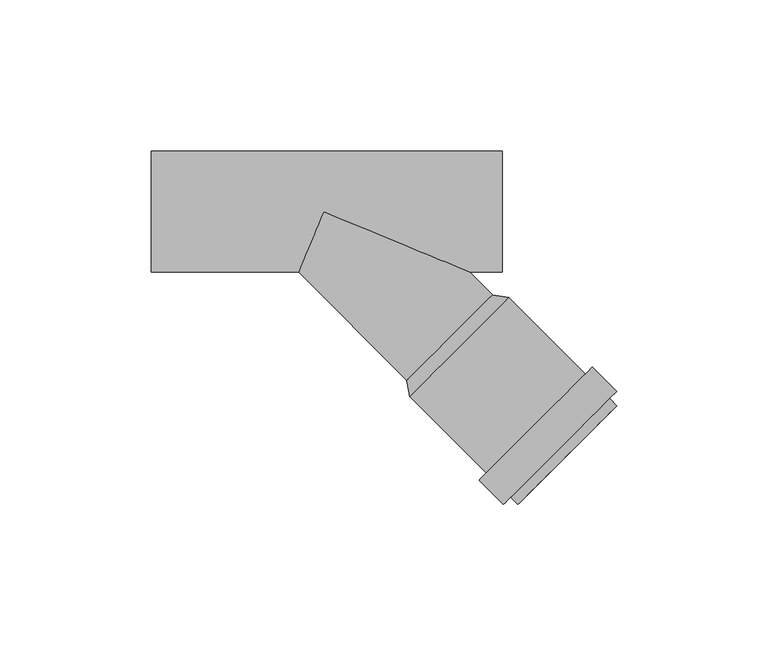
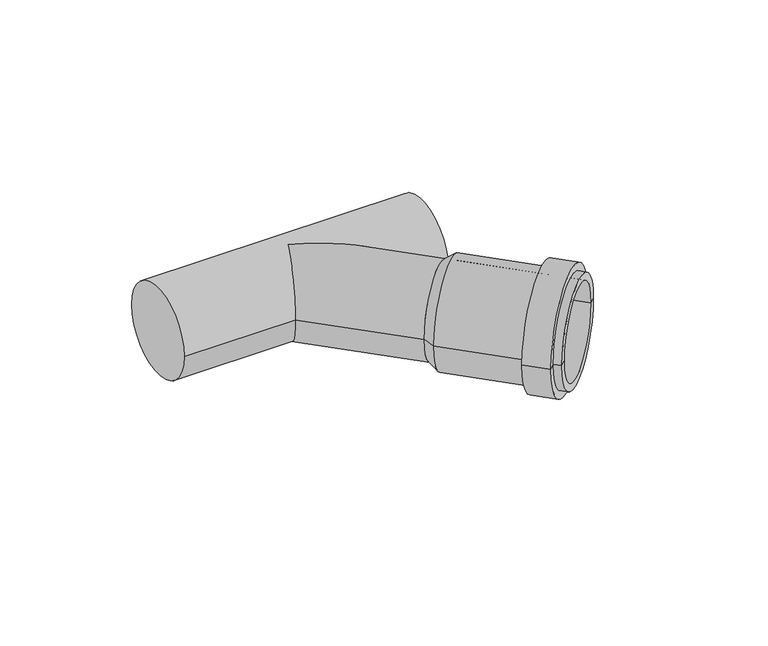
"""IFC4 building model written with IfcOpenShell, lengths in millimetres: pipe fitting geometry, pf_HTEA : pf_HTEA."""

from ifc_helpers import new_model, si_unit, frame, origin, place, context, project, spatial, polyline, circle_curve, ellipse_curve, source, transform, mapped, element, save
from ifc_brep_helpers import plane_surface, cylinder_surface, revolved_surface, advanced_brep


def pipe_fitting_d99bf9d8(model_context):
    return source(origin(), model_context, "Body", "AdvancedBrep", [
        advanced_brep(
        [(27.5771645, -55.8614357, 0.0), (55.8614357, -27.5771645, 0.0), (61.1647366, -28.4964033, 0.0), (28.4964033, -61.1647366, 0.0), (41.7193001, -41.7193001, 0.0), (64.2760064, -96.9443397, 0.0), (96.9443397, -64.2760064, 0.0), (94.7523087, -66.4680374, 0.0), (66.4680374, -94.7523087, 0.0), (61.8718434, -94.5401766, 0.0), (94.5401766, -61.8718434, 0.0), (59.4676803, -96.9443397, 0.0), (96.9443397, -59.4676803, 0.0), (51.406663, -88.8833224, 0.0), (88.8833224, -51.406663, 0.0), (53.810826, -86.4791593, 0.0), (86.4791593, -53.810826, 0.0), (30.6884343, -58.9727056, 0.0), (58.9727056, -30.6884343, 0.0), (44.8305699, -44.8305699, 0.0)],
        [
            (0, 1, circle_curve(frame((41.7193001, -41.7193001, 0.0), z_axis=(0.7071067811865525, -0.7071067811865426, 0.0), x_axis=(0.7071067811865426, 0.7071067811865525, 0.0)), 20.0)),
            (1, 2),
            (2, 3, circle_curve(frame((44.8305699, -44.8305699, 0.0), z_axis=(-0.7071067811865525, 0.7071067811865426, 0.0), x_axis=(0.7071067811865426, 0.7071067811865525, 0.0)), 23.1)),
            (3, 0),
            (1, 0, circle_curve(frame((41.7193001, -41.7193001, 0.0), z_axis=(0.7071067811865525, -0.7071067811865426, 0.0), x_axis=(0.7071067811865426, 0.7071067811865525, 0.0)), 20.0)),
            (3, 2, circle_curve(frame((44.8305699, -44.8305699, 0.0), z_axis=(-0.7071067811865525, 0.7071067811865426, 0.0), x_axis=(0.7071067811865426, 0.7071067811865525, 0.0)), 23.1)),
            (4, 1),
            (0, 4),
            (5, 6, circle_curve(frame((80.6101731, -80.6101731, 0.0), z_axis=(0.7071067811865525, -0.7071067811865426, 0.0), x_axis=(0.7071067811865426, 0.7071067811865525, 0.0)), 23.1)),
            (6, 7),
            (7, 8, circle_curve(frame((80.6101731, -80.6101731, 0.0), z_axis=(-0.7071067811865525, 0.7071067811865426, 0.0), x_axis=(0.7071067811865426, 0.7071067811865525, 0.0)), 20.0)),
            (8, 5),
            (6, 5, circle_curve(frame((80.6101731, -80.6101731, 0.0), z_axis=(0.7071067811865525, -0.7071067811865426, 0.0), x_axis=(0.7071067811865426, 0.7071067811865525, 0.0)), 23.1)),
            (8, 7, circle_curve(frame((80.6101731, -80.6101731, 0.0), z_axis=(-0.7071067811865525, 0.7071067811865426, 0.0), x_axis=(0.7071067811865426, 0.7071067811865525, 0.0)), 20.0)),
            (9, 10, circle_curve(frame((78.20601, -78.20601, 0.0), z_axis=(0.7071067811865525, -0.7071067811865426, 0.0), x_axis=(0.7071067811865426, 0.7071067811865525, 0.0)), 23.1)),
            (10, 6),
            (5, 9),
            (10, 9, circle_curve(frame((78.20601, -78.20601, 0.0), z_axis=(0.7071067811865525, -0.7071067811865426, 0.0), x_axis=(0.7071067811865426, 0.7071067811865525, 0.0)), 23.1)),
            (11, 12, circle_curve(frame((78.20601, -78.20601, 0.0), z_axis=(0.7071067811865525, -0.7071067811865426, 0.0), x_axis=(0.7071067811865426, 0.7071067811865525, 0.0)), 26.5)),
            (12, 10),
            (9, 11),
            (12, 11, circle_curve(frame((78.20601, -78.20601, 0.0), z_axis=(0.7071067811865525, -0.7071067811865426, 0.0), x_axis=(0.7071067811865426, 0.7071067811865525, 0.0)), 26.5)),
            (13, 14, circle_curve(frame((70.1449927, -70.1449927, 0.0), z_axis=(0.7071067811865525, -0.7071067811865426, 0.0), x_axis=(0.7071067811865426, 0.7071067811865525, 0.0)), 26.5)),
            (14, 12),
            (11, 13),
            (14, 13, circle_curve(frame((70.1449927, -70.1449927, 0.0), z_axis=(0.7071067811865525, -0.7071067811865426, 0.0), x_axis=(0.7071067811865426, 0.7071067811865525, 0.0)), 26.5)),
            (15, 16, circle_curve(frame((70.1449927, -70.1449927, 0.0), z_axis=(0.7071067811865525, -0.7071067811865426, 0.0), x_axis=(0.7071067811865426, 0.7071067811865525, 0.0)), 23.1)),
            (16, 14),
            (13, 15),
            (16, 15, circle_curve(frame((70.1449927, -70.1449927, 0.0), z_axis=(0.7071067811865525, -0.7071067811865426, 0.0), x_axis=(0.7071067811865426, 0.7071067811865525, 0.0)), 23.1)),
            (2, 16),
            (15, 3),
            (17, 18, circle_curve(frame((44.8305699, -44.8305699, 0.0), z_axis=(0.7071067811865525, -0.7071067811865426, 0.0), x_axis=(0.7071067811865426, 0.7071067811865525, 0.0)), 20.0)),
            (18, 19),
            (19, 17),
            (18, 17, circle_curve(frame((44.8305699, -44.8305699, 0.0), z_axis=(0.7071067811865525, -0.7071067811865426, 0.0), x_axis=(0.7071067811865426, 0.7071067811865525, 0.0)), 20.0)),
            (7, 18),
            (17, 8),
        ],
        [
            revolved_surface(polyline([(61.1647366, -28.4964033, 0.0), (55.8614357, -27.5771645, 0.0)]), (41.7193001, -41.7193001, 0.0), (-0.7071067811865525, 0.7071067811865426, 0.0)),
            plane_surface(frame((41.7193001, -41.7193001, 0.0), z_axis=(-0.7071067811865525, 0.7071067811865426, 0.0), x_axis=(0.7071067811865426, 0.7071067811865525, 0.0))),
            plane_surface(frame((80.6101731, -80.6101731, 0.0), z_axis=(0.7071067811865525, -0.7071067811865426, 0.0), x_axis=(0.7071067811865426, 0.7071067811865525, 0.0))),
            cylinder_surface(frame((41.7193001, -41.7193001, 0.0), z_axis=(-0.7071067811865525, 0.7071067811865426, 0.0), x_axis=(0.7071067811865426, 0.7071067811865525, 0.0)), 23.1),
            plane_surface(frame((78.20601, -78.20601, 0.0), z_axis=(0.7071067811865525, -0.7071067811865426, 0.0), x_axis=(0.7071067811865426, 0.7071067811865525, 0.0))),
            cylinder_surface(frame((41.7193001, -41.7193001, 0.0), z_axis=(-0.7071067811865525, 0.7071067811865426, 0.0), x_axis=(0.7071067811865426, 0.7071067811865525, 0.0)), 26.5),
            plane_surface(frame((70.1449927, -70.1449927, 0.0), z_axis=(-0.7071067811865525, 0.7071067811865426, 0.0), x_axis=(0.7071067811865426, 0.7071067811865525, 0.0))),
            plane_surface(frame((44.8305699, -44.8305699, 0.0), z_axis=(0.7071067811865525, -0.7071067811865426, 0.0), x_axis=(0.7071067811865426, 0.7071067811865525, 0.0))),
            revolved_surface(polyline([(58.97270552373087, -30.68843427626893, 0.0), (94.75230872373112, -66.46803747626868, 0.0)]), (41.7193001, -41.7193001, 0.0), (-0.7071067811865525, 0.7071067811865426, 0.0)),
        ],
        [
            (0, [[1, 2, 3, 4]]),
            (0, [[5, -4, 6, -2]]),
            (1, [[7, -1, 8]]),
            (1, [[-8, -5, -7]]),
            (2, [[9, 10, 11, 12]]),
            (2, [[13, -12, 14, -10]]),
            (3, [[15, 16, -9, 17]]),
            (3, [[18, -17, -13, -16]]),
            (4, [[19, 20, -15, 21]]),
            (4, [[22, -21, -18, -20]]),
            (5, [[23, 24, -19, 25]]),
            (5, [[26, -25, -22, -24]]),
            (6, [[27, 28, -23, 29]]),
            (6, [[30, -29, -26, -28]]),
            (3, [[-3, 31, -27, 32]]),
            (3, [[-6, -32, -30, -31]]),
            (7, [[33, 34, 35]]),
            (7, [[36, -35, -34]]),
            (8, [[-11, 37, -33, 38]]),
            (8, [[-14, -38, -36, -37]]),
        ],
    ),
        advanced_brep(
        [(27.5771645, -55.8614357, 0.0), (55.8614357, -27.5771645, 0.0), (-57.0, -20.0, 0.0), (-57.0, 20.0, 0.0), (59.0, -20.0, 0.0), (59.0, 20.0, 0.0), (-8.2842712, -20.0, 0.0), (0.0, 0.0, 20.0), (48.2842712, -20.0, 0.0), (0.0, 0.0, -20.0)],
        [
            (0, 1, circle_curve(frame((41.7193001, -41.7193001, 0.0), z_axis=(0.7071067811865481, -0.7071067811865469, 0.0), x_axis=(0.7071067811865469, 0.7071067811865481, 0.0)), 20.0)),
            (1, 0, circle_curve(frame((41.7193001, -41.7193001, 0.0), z_axis=(0.7071067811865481, -0.7071067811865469, 0.0), x_axis=(0.7071067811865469, 0.7071067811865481, 0.0)), 20.0)),
            (2, 3, circle_curve(frame((-57.0, 0.0, 0.0), z_axis=(-1.0, 0.0, 0.0), x_axis=(0.0, 1.0, 0.0)), 20.0)),
            (3, 2, circle_curve(frame((-57.0, 0.0, 0.0), z_axis=(-1.0, 0.0, 0.0), x_axis=(0.0, 1.0, 0.0)), 20.0)),
            (4, 5, circle_curve(frame((59.0, 0.0, 0.0), z_axis=(1.0, 0.0, 0.0), x_axis=(0.0, 1.0, 0.0)), 20.0)),
            (5, 4, circle_curve(frame((59.0, 0.0, 0.0), z_axis=(1.0, 0.0, 0.0), x_axis=(0.0, 1.0, 0.0)), 20.0)),
            (2, 6),
            (6, 7, ellipse_curve(frame((0.0, 0.0, 0.0), z_axis=(-0.923879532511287, 0.3826834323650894, 0.0), x_axis=(-0.3826834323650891, -0.9238795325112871, 0.0)), 21.647844, 20.0)),
            (7, 8, ellipse_curve(frame((0.0, 0.0, 0.0), z_axis=(0.3826834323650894, 0.923879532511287, 0.0), x_axis=(-0.923879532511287, 0.38268343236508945, 0.0)), 52.2625186, 20.0)),
            (8, 4),
            (5, 3),
            (8, 9, ellipse_curve(frame((0.0, 0.0, 0.0), z_axis=(0.3826834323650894, 0.923879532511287, 0.0), x_axis=(-0.923879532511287, 0.38268343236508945, 0.0)), 52.2625186, 20.0)),
            (9, 6, ellipse_curve(frame((0.0, 0.0, 0.0), z_axis=(-0.923879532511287, 0.3826834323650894, 0.0), x_axis=(-0.3826834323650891, -0.9238795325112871, 0.0)), 21.647844, 20.0)),
            (1, 8),
            (6, 0),
        ],
        [
            plane_surface(frame((41.7193001, -41.7193001, 0.0), z_axis=(0.7071067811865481, -0.7071067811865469, 0.0), x_axis=(0.0, 0.0, 1.0))),
            plane_surface(frame((-57.0, 0.0, 0.0), z_axis=(-1.0, 0.0, 0.0), x_axis=(0.0, 0.0, 1.0))),
            plane_surface(frame((59.0, 0.0, 0.0), z_axis=(1.0, 0.0, 0.0), x_axis=(0.0, 0.0, 1.0))),
            cylinder_surface(frame((-57.0, 0.0, 0.0), z_axis=(-1.0, 0.0, 0.0), x_axis=(0.0, 1.0, 0.0)), 20.0),
            cylinder_surface(frame((0.0, 0.0, 0.0), z_axis=(-0.7071067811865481, 0.7071067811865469, 0.0), x_axis=(0.7071067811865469, 0.7071067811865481, 0.0)), 20.0),
        ],
        [
            (0, [[1, 2]]),
            (1, [[3, 4]]),
            (2, [[5, 6]]),
            (3, [[-3, 7, 8, 9, 10, -6, 11]]),
            (3, [[-4, -11, -5, -10, 12, 13, -7]]),
            (4, [[-2, 14, -9, -8, 15]]),
            (4, [[-1, -15, -13, -12, -14]]),
        ],
    ),
    ])


if __name__ == "__main__":
    model = new_model("IFC4")
    model_context = context("Model", 3, world=origin())
    ifc_project = project(units=[si_unit("LENGTHUNIT", "METRE", prefix="MILLI")], contexts=[model_context])
    site = spatial("IfcSite", under=ifc_project)
    building = spatial("IfcBuilding", under=site)
    placement = place(None, origin())
    pipe_fitting_shape = pipe_fitting_d99bf9d8(model_context)
    element("IfcPipeFitting", 1, ObjectType="pf_HTEA : pf_HTEA", at=placement, inside=building, context=model_context, shape_type="MappedRepresentation", body=[
        mapped(pipe_fitting_shape, transform((0.0, 0.0, 0.0), x_axis=(1.0, 0.0, 0.0), y_axis=(0.0, 1.0, 0.0), z_axis=(0.0, 0.0, 1.0))),
    ])
    save(model, "model.ifc")
